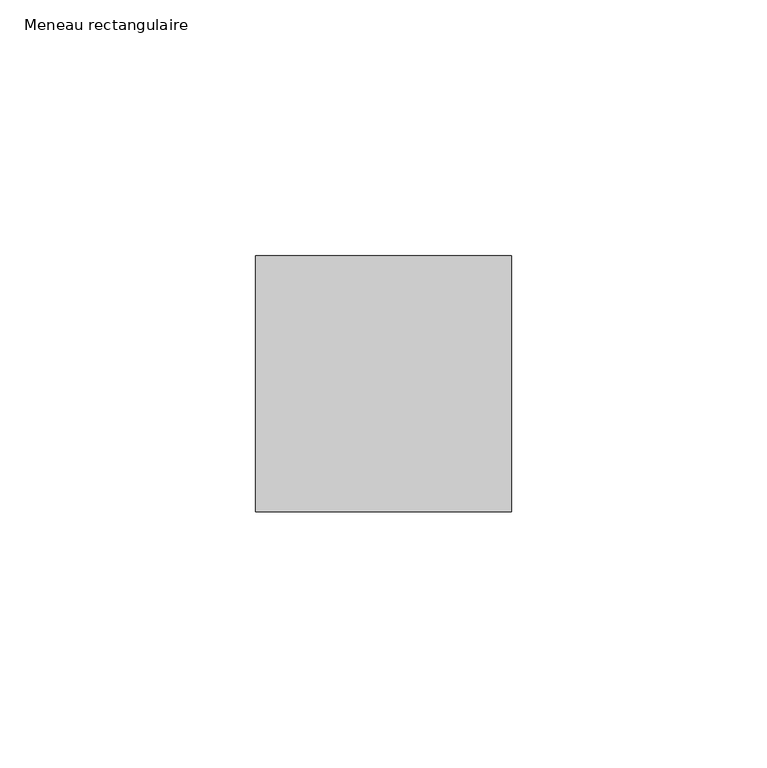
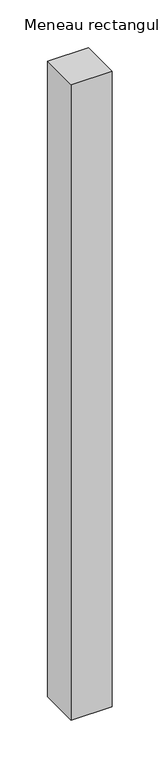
"""IFC4 building model written with IfcOpenShell, lengths in millimetres: member geometry, Meneau rectangulaire : 5x5cm aluminium laqué gris foncé."""

from ifc_helpers import new_model, si_unit, frame, origin, place, context, project, spatial, polyline, outline, extrude, source, transform, mapped, element, save


def meneau_rectangulaire_51ce5dd4(model_context):
    return source(origin(), model_context, "Body", "SweptSolid", [
        extrude(outline(polyline([(25.0, 25.0), (25.0, -25.0), (-25.0, -25.0), (-25.0, 25.0), (25.0, 25.0)])), frame((0.0, 0.0, -816.05362), z_axis=(0.0, 0.0, 1.0), x_axis=(1.0, 0.0, 0.0)), (0.0, 0.0, 1.0), 816.05362),
    ])


if __name__ == "__main__":
    model = new_model("IFC4")
    model_context = context("Model", 3, world=origin())
    ifc_project = project(units=[si_unit("LENGTHUNIT", "METRE", prefix="MILLI")], contexts=[model_context])
    site = spatial("IfcSite", under=ifc_project)
    building = spatial("IfcBuilding", under=site)
    placement = place(None, origin())
    meneau_rectangulaire_shape = meneau_rectangulaire_51ce5dd4(model_context)
    element("IfcMember", 1, ObjectType="Meneau rectangulaire : 5x5cm aluminium laqué gris foncé", at=placement, inside=building, context=model_context, shape_type="MappedRepresentation", body=[
        mapped(meneau_rectangulaire_shape, transform((0.0, 0.0, 0.0), x_axis=(1.0, 0.0, 0.0), y_axis=(0.0, 1.0, 0.0), z_axis=(0.0, 0.0, 1.0))),
    ])
    save(model, "model.ifc")
